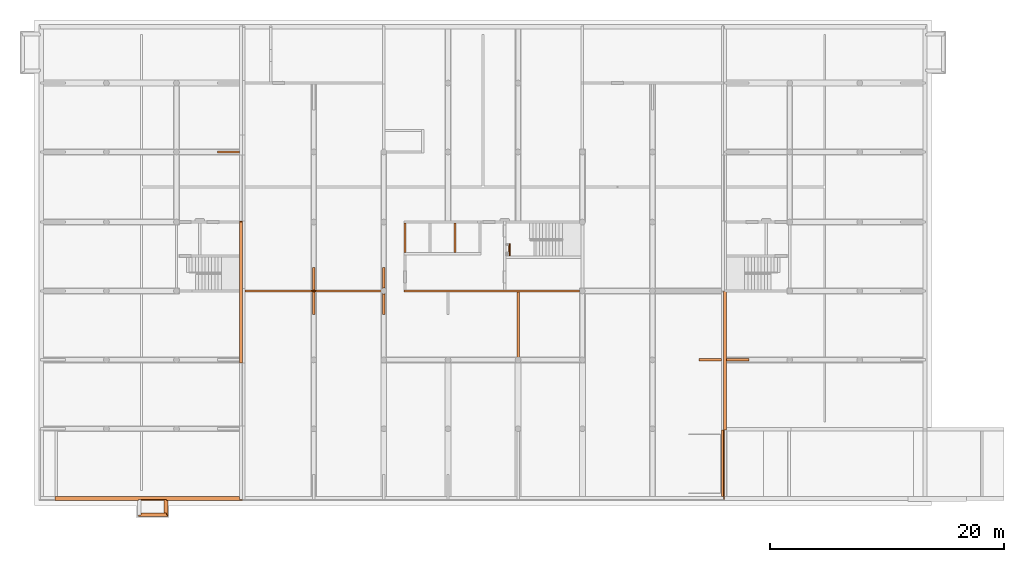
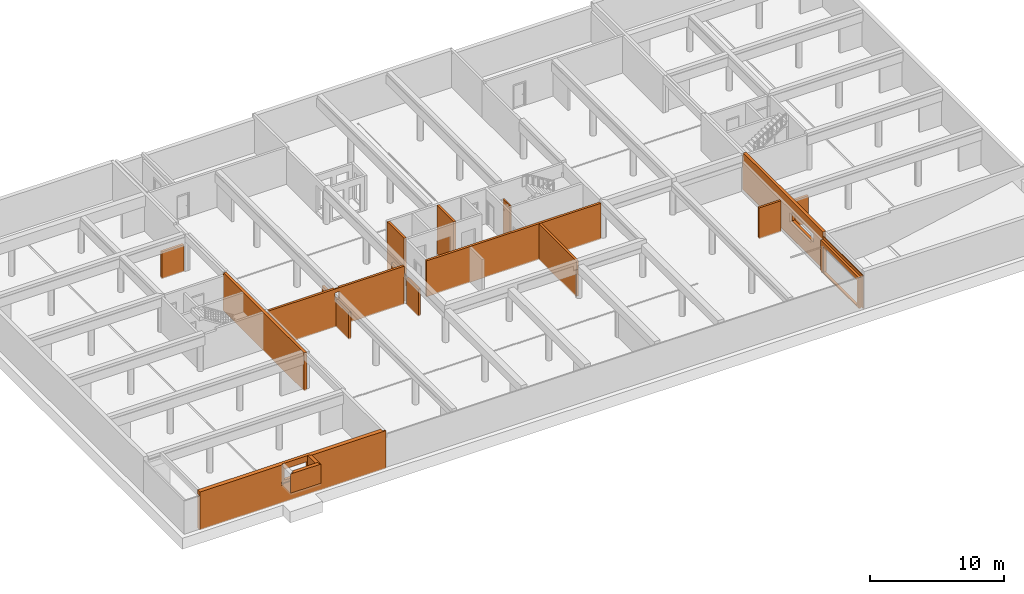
# One storey, part 22 of 25: 18 proxies, 3 openings.
"""IFC2X3 building model written with IfcOpenShell, lengths in millimetres."""

from ifc_helpers import new_model, entity, si_unit, converted_unit, derived_unit, money_unit, direction, frame, origin_with_axes, origin_2d_with_axis, place, context, subcontext, project, spatial, rectangle, extrude, faceted_brep, material, material_list, type_object, element, save


model = new_model("IFC2X3")

# Units and contexts
model_context = context("Model", 3, precision=0.01, world=origin_with_axes(), true_north=direction((0.34421633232, 0.938890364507)))
body_context = subcontext(model_context, "Body", "Model", "MODEL_VIEW")
ifc_project = project(units=[si_unit("LENGTHUNIT", "METRE", prefix="MILLI"), si_unit("AREAUNIT", "SQUARE_METRE"), si_unit("VOLUMEUNIT", "CUBIC_METRE"), converted_unit("PLANEANGLEUNIT", "DEGREE", entity("IfcPlaneAngleMeasure", 0.0174532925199), si_unit("PLANEANGLEUNIT", "RADIAN"), dimensions=[0, 0, 0, 0, 0, 0, 0]), si_unit("SOLIDANGLEUNIT", "STERADIAN"), money_unit("USD"), converted_unit("TIMEUNIT", "Year", entity("IfcTimeMeasure", 31556926.0), si_unit("TIMEUNIT", "SECOND"), dimensions=[0, 0, 1, 0, 0, 0, 0]), si_unit("MASSUNIT", "GRAM", prefix="KILO"), si_unit("THERMODYNAMICTEMPERATUREUNIT", "DEGREE_CELSIUS"), si_unit("LUMINOUSINTENSITYUNIT", "LUMEN"), si_unit("ENERGYUNIT", "JOULE", prefix="MEGA"), derived_unit("THERMALCONDUCTANCEUNIT", [(si_unit("POWERUNIT", "WATT"), 1), (si_unit("LENGTHUNIT", "METRE"), -1), (si_unit("THERMODYNAMICTEMPERATUREUNIT", "KELVIN"), -1)]), derived_unit("SPECIFICHEATCAPACITYUNIT", [(si_unit("ENERGYUNIT", "JOULE"), 1), (si_unit("MASSUNIT", "GRAM", prefix="KILO"), -1), (si_unit("THERMODYNAMICTEMPERATUREUNIT", "KELVIN"), -1)]), derived_unit("MASSDENSITYUNIT", [(si_unit("MASSUNIT", "GRAM", prefix="KILO"), 1), (si_unit("VOLUMEUNIT", "CUBIC_METRE"), -1)])], contexts=[model_context])

# Site, building, storey
site_placement = place(None, origin_with_axes())
site = spatial("IfcSite", under=ifc_project, at=site_placement, Name="USTRONIE MORSKIE", CompositionType="ELEMENT")
building_placement = place(site_placement, origin_with_axes())
building = spatial("IfcBuilding", under=site, at=building_placement, Name="Budynek", CompositionType="ELEMENT")
storey_placement = place(building_placement, frame((0.0, 0.0, -3600.0), z_axis=(0.0, 0.0, 1.0), x_axis=(1.0, 0.0, 0.0)))
storey = spatial("IfcBuildingStorey", under=building, at=storey_placement, Name="GARAZ", CompositionType="ELEMENT", Elevation=-3600.0)

# Proxies
ifc_material_1 = material(Name="Membrana przeciwwilgociowa")
ifc_material_2 = material(Name="Płyty styropianowe twarde HIGH-PRIORITY")
ifc_material_3 = material(Name="Beton konstrukcyjny 01")
ifc_material_list_1 = material_list([ifc_material_1, ifc_material_2, ifc_material_3])
building_element_proxy_type_1 = type_object("IfcBuildingElementProxyType", Name="20+10 GARAŻ 310", PredefinedType="NOTDEFINED")
proxy_1_placement = place(storey_placement, frame((360517.920919, 709201.199036, 1620.0), z_axis=(0.0, 0.0, 1.0), x_axis=(0.0, -1.0, 0.0)))
element("IfcBuildingElementProxy", 1, at=proxy_1_placement, inside=storey, type_object=building_element_proxy_type_1, material=ifc_material_list_1, Name="Œciana-006", context=body_context, shape_type="Brep", body=[
    faceted_brep([(1600.0, 310.0, 1750.0), (260.0, 310.0, 1750.0), (260.0, 300.0, 1750.0), (1600.0, 300.0, 1750.0), (1600.0, 310.0, 0.0), (260.0, 310.0, 0.0), (260.0, 300.0, 0.0), (1600.0, 300.0, 0.0)], [[[0, 1, 2, 3]], [[4, 5, 1, 0]], [[2, 1, 5, 6]], [[3, 2, 6, 7]], [[3, 7, 4, 0]], [[7, 6, 5, 4]]]),
    faceted_brep([(1500.0, 300.0, 1750.0), (250.0, 300.0, 1750.0), (250.0, 200.0, 1750.0), (1500.0, 200.0, 1750.0), (1500.0, 300.0, 0.0), (250.0, 300.0, 0.0), (250.0, 200.0, 0.0), (1500.0, 200.0, 0.0)], [[[0, 1, 2, 3]], [[4, 5, 1, 0]], [[2, 1, 5, 6]], [[3, 2, 6, 7]], [[3, 7, 4, 0]], [[7, 6, 5, 4]]]),
    faceted_brep([(1300.0, 200.0, 200.000303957), (149.99999553, 200.0, 200.000303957), (150.0, 200.0, 1750.0), (1300.0, 200.0, 1750.0), (149.99999553, 0.0, 200.000303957), (1300.0, 0.0, 200.000303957), (150.0, 0.0, 1750.0), (1300.0, 0.0, 1750.0)], [[[0, 1, 2, 3]], [[4, 1, 0, 5]], [[1, 4, 6, 2]], [[7, 3, 2, 6]], [[5, 0, 3, 7]], [[4, 5, 7, 6]]]),
])
ifc_material_list_2 = material_list([ifc_material_3, ifc_material_2, ifc_material_1])
proxy_2_placement = place(storey_placement, frame((358517.920919, 707901.199036, 1620.0), z_axis=(0.0, 0.0, 1.0), x_axis=(1.0, 0.0, 0.0)))
element("IfcBuildingElementProxy", 2, at=proxy_2_placement, inside=storey, type_object=building_element_proxy_type_1, material=ifc_material_list_2, Name="Œciana-006", context=body_context, shape_type="Brep", body=[
    faceted_brep([(2200.0, -200.0, 200.000303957), (2200.0, 0.0, 200.000303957), (2200.0, 0.0, 1750.0), (2200.0, -200.0, 1750.0), (0.0, 0.0, 200.000303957), (0.0, -200.0, 200.000303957), (0.0, 0.0, 1750.0), (0.0, -200.0, 1750.0)], [[[0, 1, 2, 3]], [[4, 1, 0, 5]], [[1, 4, 6, 2]], [[3, 2, 6, 7]], [[5, 0, 3, 7]], [[4, 5, 7, 6]]]),
    faceted_brep([(2300.0, -300.0, 0.0), (-200.0, -300.0, 0.0), (-200.0, -200.0, 0.0), (2300.0, -200.0, 0.0), (2300.0, -300.0, 1750.0), (-200.0, -300.0, 1750.0), (-200.0, -200.0, 1750.0), (2300.0, -200.0, 1750.0)], [[[0, 1, 2, 3]], [[4, 5, 1, 0]], [[2, 1, 5, 6]], [[3, 2, 6, 7]], [[3, 7, 4, 0]], [[7, 6, 5, 4]]]),
    faceted_brep([(2310.0, -310.0, 0.0), (-300.0, -310.0, 0.0), (-300.0, -300.0, 0.0), (2310.0, -300.0, 0.0), (2310.0, -310.0, 1750.0), (-300.0, -310.0, 1750.0), (-300.0, -300.0, 1750.0), (2310.0, -300.0, 1750.0)], [[[0, 1, 2, 3]], [[4, 5, 1, 0]], [[2, 1, 5, 6]], [[3, 2, 6, 7]], [[3, 7, 4, 0]], [[7, 6, 5, 4]]]),
])
building_element_proxy_type_2 = type_object("IfcBuildingElementProxyType", Name="Beton konstrukcyjny 01 200", PredefinedType="NOTDEFINED")
proxy_3_placement = place(storey_placement, frame((367067.920919, 738801.199036, -100.0), z_axis=(0.0, 0.0, 1.0), x_axis=(-1.0, 0.0, 0.0)))
element("IfcBuildingElementProxy", 3, at=proxy_3_placement, inside=storey, type_object=building_element_proxy_type_2, material=ifc_material_3, Name="SW-01", context=body_context, shape_type="Brep", body=[
    faceted_brep([(100.0, 100.0, 2470.00030619), (100.0, -100.0, 2470.00030619), (2000.0, -100.0, 2470.00030619), (2000.0, 100.0, 2470.00030619), (100.0, 100.0, 0.0), (100.0, -100.0, 0.0), (2000.0, -100.0, 0.0), (2000.0, 100.0, 0.0)], [[[0, 1, 2, 3]], [[4, 5, 1, 0]], [[1, 5, 6, 2]], [[7, 3, 2, 6]], [[4, 0, 3, 7]], [[5, 4, 7, 6]]]),
])
proxy_4_placement = place(storey_placement, frame((396317.920919, 726901.199036, -100.0), z_axis=(0.0, 0.0, 1.0), x_axis=(-1.0, 0.0, 0.0)))
element("IfcBuildingElementProxy", 4, at=proxy_4_placement, inside=storey, type_object=building_element_proxy_type_2, material=ifc_material_3, Name="SW-01", context=body_context, shape_type="Brep", body=[
    faceted_brep([(250.0, 0.0, 3270.0), (246.201938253, -43.4120444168, 3270.0), (234.923155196, -85.5050358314, 3270.0), (228.1640424, -100.0, 3270.0), (15280.0, -100.0, 3270.0), (15280.0, 100.0, 3270.0), (228.1640424, 100.0, 3270.0), (234.923155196, 85.5050358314, 3270.0), (246.201938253, 43.4120444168, 3270.0), (246.201938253, -43.4120444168, 0.0), (250.0, 0.0, 0.0), (234.923155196, -85.5050358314, 0.0), (228.1640424, -100.0, 0.0), (15280.0, -100.0, 0.0), (15280.0, 100.0, 0.0), (228.1640424, 100.0, 0.0), (234.923155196, 85.5050358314, 0.0), (246.201938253, 43.4120444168, 0.0)], [[[0, 1, 2, 3, 4, 5, 6, 7, 8]], [[9, 1, 0, 10]], [[11, 2, 1, 9]], [[11, 12, 3, 2]], [[4, 3, 12, 13]], [[13, 14, 5, 4]], [[14, 15, 6, 5]], [[16, 7, 6, 15]], [[17, 8, 7, 16]], [[10, 0, 8, 17]], [[17, 16, 15, 14, 13, 12, 11, 9, 10]]]),
])
proxy_5_placement = place(storey_placement, frame((408317.920919, 721001.199036, -100.0), z_axis=(0.0, 0.0, 1.0), x_axis=(-1.0, 0.0, 0.0)))
element("IfcBuildingElementProxy", 5, at=proxy_5_placement, inside=storey, type_object=building_element_proxy_type_2, material=ifc_material_3, Name="SW-01", context=body_context, shape_type="Brep", body=[
    faceted_brep([(2000.0, -100.0, 0.0), (2000.0, -100.0, 2820.0), (100.0, -100.0, 2820.0), (100.0, -100.0, 0.0), (2000.0, 100.0, 0.0), (2000.0, 100.0, 2820.0), (100.0, 100.0, 2820.0), (100.0, 100.0, 0.0)], [[[0, 1, 2, 3]], [[4, 5, 1, 0]], [[5, 6, 2, 1]], [[3, 2, 6, 7]], [[3, 7, 4, 0]], [[7, 6, 5, 4]]]),
])
proxy_6_placement = place(storey_placement, frame((373317.920919, 726901.199036, -100.0), z_axis=(0.0, 0.0, 1.0), x_axis=(0.0, 1.0, 0.0)))
element("IfcBuildingElementProxy", 6, at=proxy_6_placement, inside=storey, type_object=building_element_proxy_type_2, material=ifc_material_3, Name="SW-01", context=body_context, shape_type="Brep", body=[
    faceted_brep([(2000.0, -100.0, 2470.0), (2000.0, 100.0, 2470.0), (100.0, 100.0, 2470.0), (100.0, -100.0, 2470.0), (2000.0, 100.0, 0.0), (2000.0, -100.0, 0.0), (100.0, 100.0, 0.0), (100.0, -100.0, 0.0)], [[[0, 1, 2, 3]], [[4, 1, 0, 5]], [[1, 4, 6, 2]], [[2, 6, 7, 3]], [[5, 0, 3, 7]], [[4, 5, 7, 6]]]),
])
proxy_7_placement = place(storey_placement, frame((379317.920919, 728901.199036, -100.0), z_axis=(0.0, 0.0, 1.0), x_axis=(0.0, -1.0, 0.0)))
element("IfcBuildingElementProxy", 7, at=proxy_7_placement, inside=storey, type_object=building_element_proxy_type_2, material=ifc_material_3, Name="SW-01", context=body_context, shape_type="Brep", body=[
    faceted_brep([(4000.0, 100.0, 0.0), (2228.18053009, 100.0, 0.0), (2228.18053009, 100.0, 2470.00030619), (4000.0, 100.0, 2470.00030619), (2246.21671037, 43.4146491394, 0.0), (2234.93725059, 85.5101661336, 0.0), (4000.0, -100.0, 0.0), (2228.18053009, -100.0, 0.0), (2234.93725059, -85.5101661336, 0.0), (2246.21671037, -43.4146491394, 0.0), (2250.015, 0.0, 0.0), (2234.93725059, 85.5101661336, 2470.00030619), (2246.21671037, -43.4146491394, 2470.00030619), (2234.93725059, -85.5101661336, 2470.00030619), (2228.18053009, -100.0, 2470.00030619), (4000.0, -100.0, 2470.00030619), (2246.21671037, 43.4146491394, 2470.00030619), (2250.015, 0.0, 2470.00030619)], [[[0, 1, 2, 3]], [[4, 5, 1, 0, 6, 7, 8, 9, 10]], [[5, 11, 2, 1]], [[12, 13, 14, 15, 3, 2, 11, 16, 17]], [[6, 0, 3, 15]], [[4, 16, 11, 5]], [[15, 14, 7, 6]], [[7, 14, 13, 8]], [[8, 13, 12, 9]], [[9, 12, 17, 10]], [[10, 17, 16, 4]]]),
    faceted_brep([(1749.985, 0.0, 2470.00030619), (1753.78328963, 43.4146491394, 2470.00030619), (1765.06274941, 85.5101661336, 2470.00030619), (1771.81946991, 100.0, 2470.00030619), (0.0, 100.0, 2470.00030619), (0.0, -100.0, 2470.00030619), (1771.81946991, -100.0, 2470.00030619), (1765.06274941, -85.5101661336, 2470.00030619), (1753.78328963, -43.4146491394, 2470.00030619), (1753.78328963, 43.4146491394, 0.0), (1749.985, 0.0, 0.0), (1765.06274941, 85.5101661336, 0.0), (1771.81946991, 100.0, 0.0), (0.0, 100.0, 0.0), (0.0, -100.0, 0.0), (1771.81946991, -100.0, 0.0), (1765.06274941, -85.5101661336, 0.0), (1753.78328963, -43.4146491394, 0.0)], [[[0, 1, 2, 3, 4, 5, 6, 7, 8]], [[9, 1, 0, 10]], [[11, 2, 1, 9]], [[11, 12, 3, 2]], [[4, 3, 12, 13]], [[13, 14, 5, 4]], [[14, 15, 6, 5]], [[16, 7, 6, 15]], [[17, 8, 7, 16]], [[10, 0, 8, 17]], [[17, 16, 15, 14, 13, 12, 11, 9, 10]]]),
])
proxy_8_placement = place(storey_placement, frame((367317.920919, 726901.199036, -100.0), z_axis=(0.0, 0.0, 1.0), x_axis=(1.0, 0.0, 0.0)))
element("IfcBuildingElementProxy", 8, at=proxy_8_placement, inside=storey, type_object=building_element_proxy_type_2, material=ifc_material_3, Name="SW-01", context=body_context, shape_type="Brep", body=[
    faceted_brep([(11799.9999978, -100.0, 3220.00030172), (11800.0, -100.0, 2470.00030619), (11800.0, 100.0, 2470.00030619), (11799.9999978, 100.0, 3220.00030172), (11771.8194699, -100.0, 0.0), (11771.8194699, -100.0, 2470.00030619), (11800.0, -100.0, 3470.00030619), (100.0, -100.0, 3470.0), (100.0, -100.0, 0.0), (6200.0, -100.0, 2470.00030619), (5800.0, -100.0, 2470.00030619), (5800.00000447, -100.0, 2920.0003047), (5800.0, -100.0, 3120.00030619), (6200.0, -100.0, 3120.00030619), (6199.99999702, -100.0, 2920.0003047), (11765.0627494, 85.5101661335, 2470.00030619), (11771.8194699, 100.0, 2470.00030619), (11765.0627494, -85.5101661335, 2470.00030619), (11753.7832896, -43.4146491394, 2470.00030619), (11749.985, 0.0, 2470.00030619), (11753.7832896, 43.4146491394, 2470.00030619), (11771.8194699, 100.0, 0.0), (100.0, 100.0, 0.0), (100.0, 100.0, 3470.0), (5800.0, 100.0, 3470.00030619), (5800.00000447, 100.0, 3220.00030172), (5800.0, 100.0, 2470.00030619), (6200.0, 100.0, 2470.00030619), (6200.00000224, 100.0, 3220.00030172), (6200.0, 100.0, 3470.00030619), (11800.0, 100.0, 3470.00030619), (11765.0627494, -85.5101661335, 0.0), (6200.0, 0.0, 3470.00030619), (5800.0, 0.0, 3470.00030619), (11753.7832896, -43.4146491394, 0.0), (11765.0627494, 85.5101661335, 0.0), (11753.7832896, 43.4146491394, 0.0), (11749.985, 0.0, 0.0), (6200.0, 0.0, 2470.00030619), (5800.0, 0.0, 2470.00030619), (5800.00000268, 0.0, 2920.0003047), (5800.00000387, 0.0, 3120.00030619), (6200.00000194, 0.0, 3120.00030619), (6200.00000134, 0.0, 2920.0003047), (5800.00000447, 0.0, 3220.00030172), (6200.00000224, 0.0, 3220.00030172)], [[[0, 1, 2, 3]], [[4, 5, 1, 0, 6, 7, 8], [9, 10, 11, 12, 13, 14]], [[15, 16, 2, 1, 5, 17, 18, 19, 20]], [[2, 16, 21, 22, 23, 24, 25, 26, 27, 28, 29, 30, 3]], [[6, 0, 3, 30]], [[17, 5, 4, 31]], [[29, 32, 33, 24, 23, 7, 6, 30]], [[22, 8, 7, 23]], [[34, 31, 4, 8, 22, 21, 35, 36, 37]], [[10, 9, 38, 27, 26, 39]], [[11, 10, 39, 40]], [[12, 11, 40, 41]], [[13, 12, 41, 42]], [[14, 13, 42, 43]], [[9, 14, 43, 38]], [[35, 21, 16, 15]], [[17, 31, 34, 18]], [[18, 34, 37, 19]], [[19, 37, 36, 20]], [[20, 36, 35, 15]], [[33, 44, 25, 24]], [[40, 39, 26, 25, 44, 41]], [[42, 45, 28, 27, 38, 43]], [[28, 45, 32, 29]], [[41, 44, 33, 32, 45, 42]]]),
])
proxy_9_placement = place(storey_placement, frame((373317.920919, 726901.199036, -100.0), z_axis=(0.0, 0.0, 1.0), x_axis=(0.0, -1.0, 0.0)))
element("IfcBuildingElementProxy", 9, at=proxy_9_placement, inside=storey, type_object=building_element_proxy_type_2, material=ifc_material_3, Name="SW-01", context=body_context, shape_type="Brep", body=[
    faceted_brep([(100.0, -100.0, 0.0), (100.0, -100.0, 2470.00030619), (100.0, 100.0, 2470.00030619), (100.0, 100.0, 0.0), (2000.0, -100.0, 0.0), (2000.0, -100.0, 2470.00030619), (2000.0, 100.0, 2470.00030619), (2000.0, 100.0, 0.0)], [[[0, 1, 2, 3]], [[4, 5, 1, 0]], [[5, 6, 2, 1]], [[3, 2, 6, 7]], [[7, 4, 0, 3]], [[7, 6, 5, 4]]]),
])
proxy_10_placement = place(storey_placement, frame((390817.920919, 726901.199036, -100.0), z_axis=(0.0, 0.0, 1.0), x_axis=(0.0, -1.0, 0.0)))
element("IfcBuildingElementProxy", 10, at=proxy_10_placement, inside=storey, type_object=building_element_proxy_type_2, material=ifc_material_3, Name="SW-01", context=body_context, shape_type="Brep", body=[
    faceted_brep([(5700.0, 100.0, 2470.00030619), (5671.81946991, 100.0, 2470.00030619), (5671.81946991, 100.0, 0.0), (100.0, 100.0, 0.0), (100.0, 100.0, 3270.0), (5700.00000119, 100.0, 3270.0), (5699.99999776, 100.0, 3220.00030172), (5665.06274941, 85.5101661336, 2470.00030619), (5700.0, -100.0, 2470.00030619), (5671.81946991, -100.0, 2470.00030619), (5665.06274941, -85.5101661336, 2470.00030619), (5653.78328963, -43.4146491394, 2470.00030619), (5649.985, 0.0, 2470.00030619), (5653.78328963, 43.4146491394, 2470.00030619), (5665.06274941, 85.5101661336, 0.0), (5653.78328963, -43.4146491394, 0.0), (5665.06274941, -85.5101661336, 0.0), (5671.81946991, -100.0, 0.0), (100.0, -100.0, 0.0), (5653.78328963, 43.4146491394, 0.0), (5649.985, 0.0, 0.0), (100.0, -100.0, 3270.0), (5700.00000119, -100.0, 3270.0), (5699.99999776, -100.0, 3220.00030172)], [[[0, 1, 2, 3, 4, 5, 6]], [[7, 1, 0, 8, 9, 10, 11, 12, 13]], [[14, 2, 1, 7]], [[15, 16, 17, 18, 3, 2, 14, 19, 20]], [[4, 3, 18, 21]], [[4, 21, 22, 5]], [[22, 23, 6, 5]], [[23, 8, 0, 6]], [[17, 9, 8, 23, 22, 21, 18]], [[9, 17, 16, 10]], [[10, 16, 15, 11]], [[11, 15, 20, 12]], [[12, 20, 19, 13]], [[13, 19, 14, 7]]]),
])
proxy_11_placement = place(storey_placement, frame((381137.920919, 732801.199036, -1220.0), z_axis=(0.0, 0.0, 1.0), x_axis=(0.0, -1.0, 0.0)))
element("IfcBuildingElementProxy", 11, at=proxy_11_placement, inside=storey, type_object=building_element_proxy_type_2, material=ifc_material_3, Name="SW-01", context=body_context, shape_type="Brep", body=[
    faceted_brep([(2610.0, -100.0, 4390.0), (2610.0, -100.0, 0.0), (2610.0, 100.0, 0.0), (2610.0, 100.0, 4390.0), (100.0, -100.0, 0.0), (100.0, -100.0, 4390.0), (100.0, 100.0, 0.0), (100.0, 100.0, 4390.0)], [[[0, 1, 2, 3]], [[4, 1, 0, 5]], [[6, 2, 1, 4]], [[3, 2, 6, 7]], [[5, 0, 3, 7]], [[5, 7, 6, 4]]]),
])
proxy_12_placement = place(storey_placement, frame((408567.920919, 721001.199036, -100.0), z_axis=(0.0, 0.0, 1.0), x_axis=(1.0, 0.0, 0.0)))
element("IfcBuildingElementProxy", 12, at=proxy_12_placement, inside=storey, type_object=building_element_proxy_type_2, material=ifc_material_3, Name="SW-01", context=body_context, shape_type="Brep", body=[
    faceted_brep([(100.0, -100.0, 0.0), (100.0, 100.0, 0.0), (2000.0, 100.0, 0.0), (2000.0, -100.0, 0.0), (100.0, -100.0, 2470.0), (100.0, 100.0, 2470.0), (2000.0, 100.0, 2470.0), (2000.0, -100.0, 2470.0)], [[[0, 1, 2, 3]], [[4, 5, 1, 0]], [[1, 5, 6, 2]], [[7, 3, 2, 6]], [[4, 0, 3, 7]], [[5, 4, 7, 6]]]),
])
proxy_13_placement = place(storey_placement, frame((385417.920919, 730091.199036, -1220.0), z_axis=(0.0, 0.0, 1.0), x_axis=(0.0, 1.0, 0.0)))
element("IfcBuildingElementProxy", 13, at=proxy_13_placement, inside=storey, type_object=building_element_proxy_type_2, material=ifc_material_3, Name="SW-01", context=body_context, shape_type="Brep", body=[
    faceted_brep([(2610.0, 100.0, 0.0), (2610.0, 100.0, 4390.0), (2610.0, -100.0, 4390.0), (2610.0, -100.0, 0.0), (100.0, 100.0, 0.0), (100.0, 100.0, 4390.0), (100.0, -100.0, 4390.0), (100.0, -100.0, 0.0)], [[[0, 1, 2, 3]], [[4, 5, 1, 0]], [[5, 6, 2, 1]], [[3, 2, 6, 7]], [[0, 3, 7, 4]], [[7, 6, 5, 4]]]),
])

# Proxy, opening
building_element_proxy_type_3 = type_object("IfcBuildingElementProxyType", Name="25+10 GARAŻ 360", PredefinedType="NOTDEFINED")
proxy_14_placement = place(storey_placement, frame((351167.920919, 709201.199036, -800.0), z_axis=(0.0, 0.0, 1.0), x_axis=(1.0, 0.0, 0.0)))
proxy_14 = element("IfcBuildingElementProxy", 14, at=proxy_14_placement, inside=storey, type_object=building_element_proxy_type_3, material=ifc_material_list_2, Name="SZ-02", context=body_context, shape_type="Brep", body=[
    faceted_brep([(15800.0, 99.9999985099, 700.0), (0.0, 100.0, 700.0), (0.0, 100.0, 3620.0), (200.0, 100.0, 3620.0), (200.0, 100.0, 3820.0), (0.0, 100.0, 3820.0), (0.0, 100.0, 4170.0), (15800.0, 100.0, 4170.0), (15800.0, -149.99999553, 700.0), (0.0, -150.0, 700.0), (0.0, -150.000003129, 3620.0), (200.0, -150.000003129, 3620.0), (200.0, -150.000003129, 3820.0), (0.0, -150.000003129, 3820.0), (0.0, -150.0, 4170.0), (15800.0, -150.0, 4170.0)], [[[0, 1, 2, 3, 4, 5, 6, 7]], [[8, 9, 1, 0]], [[1, 9, 10, 2]], [[10, 11, 3, 2]], [[11, 12, 4, 3]], [[12, 13, 5, 4]], [[14, 6, 5, 13]], [[7, 6, 14, 15]], [[7, 15, 8, 0]], [[13, 12, 11, 10, 9, 8, 15, 14]]]),
    faceted_brep([(7150.0, -250.0, 4170.0), (7150.0, -250.00000132, 2620.00030396), (7150.0, -149.99999553, 2620.00030396), (7150.0, -150.0, 4170.0), (9650.0, -250.00000149, 2620.00030396), (9650.0, -250.00000149, 2420.00030396), (9550.0, -250.00000149, 2420.00030396), (9350.0, -250.00000149, 2420.00030396), (7350.0, -250.00000149, 2420.00030396), (7150.0, -250.00000149, 2420.00030396), (7050.0, -250.00000149, 2420.00030396), (7050.0, -250.00000149, 2620.00030396), (0.0, -250.0, 4170.0), (0.0, -250.0, 700.0), (15900.0, -250.00000149, 700.0), (16050.0000024, -250.00000149, 700.0), (16050.0000024, -250.0, 4170.0), (9550.0, -250.0, 4170.0), (9550.0, -250.00000132, 2620.00030396), (7050.0, -149.99999553, 2620.00030396), (9350.0, -149.99999553, 2420.00030396), (9550.0, -149.99999553, 2420.00030396), (9650.0, -149.99999553, 2420.00030396), (9650.0, -149.99999553, 2620.00030396), (9550.0, -149.99999553, 2620.00030396), (9550.0, -150.0, 4170.0), (16050.0000024, -150.0, 4170.0), (16050.0000024, -149.99999553, 700.0), (15900.0, -149.99999553, 700.0), (0.0, -150.0, 700.0), (0.0, -150.0, 4170.0), (7050.0, -149.99999553, 2420.00030396), (7150.0, -149.99999553, 2420.00030396), (7350.0, -149.99999553, 2420.00030396)], [[[0, 1, 2, 3]], [[4, 5, 6, 7, 8, 9, 10, 11, 1, 0, 12, 13, 14, 15, 16, 17, 18]], [[11, 19, 2, 1]], [[20, 21, 22, 23, 24, 25, 26, 27, 28, 29, 30, 3, 2, 19, 31, 32, 33]], [[30, 12, 0, 3]], [[4, 23, 22, 5]], [[5, 22, 21, 6]], [[7, 6, 21, 20]], [[8, 7, 20, 33]], [[9, 8, 33, 32]], [[10, 9, 32, 31]], [[10, 31, 19, 11]], [[30, 29, 13, 12]], [[13, 29, 28, 14]], [[15, 14, 28, 27]], [[27, 26, 16, 15]], [[16, 26, 25, 17]], [[25, 24, 18, 17]], [[18, 24, 23, 4]]]),
    faceted_brep([(7050.0, -250.00000149, 2420.00030396), (7050.0, -250.00000149, 2320.00030396), (9650.0, -250.00000149, 2320.00030396), (9650.0, -250.00000149, 2420.00030396), (9650.0, -250.0, 4170.0), (16050.0000024, -250.0, 4170.0), (16050.0000024, -250.000001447, 800.0), (0.0, -250.0, 800.0), (0.0, -250.0, 4170.0), (7050.0, -250.0, 4170.0), (7050.0, -260.0, 2320.00030396), (7050.0, -260.0, 2420.00030396), (9650.0, -260.0, 2320.00030396), (9650.0, -260.0, 2420.00030396), (9650.0, -260.0, 4170.0), (16050.0000024, -260.0, 4170.0), (16050.0000024, -260.0, 800.0), (0.0, -260.0, 800.0), (0.0, -260.0, 4170.0), (7050.0, -260.0, 4170.0)], [[[0, 1, 2, 3, 4, 5, 6, 7, 8, 9]], [[10, 1, 0, 11]], [[12, 2, 1, 10]], [[12, 13, 3, 2]], [[4, 3, 13, 14]], [[15, 5, 4, 14]], [[15, 16, 6, 5]], [[17, 7, 6, 16]], [[8, 7, 17, 18]], [[8, 18, 19, 9]], [[19, 11, 0, 9]], [[12, 10, 11, 19, 18, 17, 16, 15, 14, 13]]]),
])
opening_1_placement = place(proxy_14_placement, frame((8350.0, 0.0, 2619.99997167), z_axis=(0.0, 0.0, 1.0), x_axis=(1.0, 0.0, 0.0)))
element("IfcOpeningElement", 15, at=opening_1_placement, cuts=proxy_14, Name="xx", context=body_context, shape_type="SweptSolid", body=[
    extrude(rectangle(XDim=2000.0, YDim=1000.0, at=origin_2d_with_axis()), frame((0.0, -150.0, 500.0), z_axis=(0.0, 1.0, 0.0), x_axis=(1.0, 0.0, 0.0)), (0.0, 0.0, -1.0), 470.0),
    extrude(rectangle(XDim=2000.0, YDim=1000.0, at=origin_2d_with_axis()), frame((0.0, -150.0, 500.0), z_axis=(0.0, -1.0, 0.0), x_axis=(1.0, 0.0, 0.0)), (0.0, 0.0, -1.0), 470.0),
])

# Proxy
ifc_material_4 = material(Name="Płyty styropianowe twarde")
ifc_material_list_3 = material_list([ifc_material_4, ifc_material_3])
building_element_proxy_type_4 = type_object("IfcBuildingElementProxyType", Name="20+5 250", PredefinedType="NOTDEFINED")
proxy_15_placement = place(storey_placement, frame((367067.920919, 732801.199036, -100.0), z_axis=(0.0, 0.0, 1.0), x_axis=(0.0, -1.0, 0.0)))
element("IfcBuildingElementProxy", 16, at=proxy_15_placement, inside=storey, type_object=building_element_proxy_type_4, material=ifc_material_list_3, Name="Œciana-008", context=body_context, shape_type="Brep", body=[
    faceted_brep([(12050.0, 150.0, 3470.0), (12050.0, 150.0, 100.0), (-100.0, 150.0, 100.0), (-100.0, 150.0, 3280.0), (0.0, 150.0, 3280.0), (0.0, 150.0, 3470.0), (12050.0, 100.0, 3470.0), (12050.0, 100.0, 100.0), (-100.0, 100.0, 100.0), (-100.0, 100.0, 3280.0), (0.0, 100.0, 3280.0), (0.0, 100.0, 3470.0)], [[[0, 1, 2, 3, 4, 5]], [[6, 7, 1, 0]], [[7, 8, 2, 1]], [[3, 2, 8, 9]], [[9, 10, 4, 3]], [[4, 10, 11, 5]], [[6, 0, 5, 11]], [[9, 8, 7, 6, 11, 10]]]),
    faceted_brep([(-100.0, -100.0, 0.0), (-100.0, -100.0, 3280.0), (-100.0, 100.0, 3280.0), (-100.0, 100.0, 0.0), (0.0, -100.0, 3470.0), (0.0, -100.0, 3280.0), (12050.0, -100.0, 0.0), (12050.0, -100.0, 3470.0), (0.0, 100.0, 3280.0), (0.0, 100.0, 3470.0), (12050.0, 100.0, 3470.0), (12050.0, 100.0, 0.0)], [[[0, 1, 2, 3]], [[4, 5, 1, 0, 6, 7]], [[8, 2, 1, 5]], [[2, 8, 9, 10, 11, 3]], [[6, 0, 3, 11]], [[5, 4, 9, 8]], [[11, 10, 7, 6]], [[10, 9, 4, 7]]]),
])

# Proxy, opening
proxy_16_placement = place(storey_placement, frame((408317.920919, 715001.199036, -100.0), z_axis=(0.0, 0.0, 1.0), x_axis=(0.0, -1.0, 0.0)))
proxy_16 = element("IfcBuildingElementProxy", 17, at=proxy_16_placement, inside=storey, type_object=building_element_proxy_type_4, material=ifc_material_list_3, Name="Œciana-006", context=body_context, shape_type="Brep", body=[
    faceted_brep([(5949.98021535, 150.0, 100.0), (0.0, 150.0, 100.0), (0.0, 150.0, 3120.0), (5949.98021535, 150.0, 3120.0), (0.0, 100.0, 100.0), (5949.98021535, 100.0, 100.0), (0.0, 100.0, 3120.0), (5949.98021535, 100.0, 3120.0)], [[[0, 1, 2, 3]], [[4, 1, 0, 5]], [[1, 4, 6, 2]], [[7, 3, 2, 6]], [[5, 0, 3, 7]], [[4, 5, 7, 6]]]),
    faceted_brep([(0.0, -100.0, 2820.0), (0.0, 100.0, 2820.0), (0.0, 100.0, 0.0), (0.0, -100.0, 0.0), (5699.98021535, 100.0, 2820.0), (5699.98021535, -100.0, 2820.0), (5699.98021535, 100.0, 0.0), (5699.98021535, -100.0, 0.0)], [[[0, 1, 2, 3]], [[4, 1, 0, 5]], [[1, 4, 6, 2]], [[6, 7, 3, 2]], [[5, 0, 3, 7]], [[4, 5, 7, 6]]]),
])
opening_2_placement = place(proxy_16_placement, frame((2898.21298924, 0.0, 100.0), z_axis=(0.0, 0.0, 1.0), x_axis=(1.0, 0.0, 0.0)))
element("IfcOpeningElement", 18, at=opening_2_placement, cuts=proxy_16, Name="B01", context=body_context, shape_type="SweptSolid", body=[
    extrude(rectangle(XDim=5000.0, YDim=2350.0, at=origin_2d_with_axis()), frame((0.0, -250.0, 1175.0), z_axis=(0.0, 1.0, 0.0), x_axis=(-1.0, 0.0, 0.0)), (0.0, 0.0, 1.0), 750.0),
])

ifc_material_list_4 = material_list([ifc_material_3, ifc_material_4])
proxy_17_placement = place(storey_placement, frame((408567.920919, 726901.199036, -100.0), z_axis=(0.0, 0.0, 1.0), x_axis=(0.0, -1.0, 0.0)))
proxy_17 = element("IfcBuildingElementProxy", 19, at=proxy_17_placement, inside=storey, type_object=building_element_proxy_type_4, material=ifc_material_list_4, Name="SW-01", context=body_context, shape_type="Brep", body=[
    faceted_brep([(0.0, -100.0, 3470.0), (11900.0, -100.0, 3470.0), (11900.0, 100.0, 3470.0), (0.0, 100.0, 3470.0), (11900.0, -100.0, 0.0), (0.0, -100.0, 3270.0), (100.0, -100.0, 3270.0), (100.0, -100.0, 0.0), (11900.0, 100.0, 0.0), (100.0, 100.0, 0.0), (100.0, 100.0, 3270.0), (0.0, 100.0, 3270.0)], [[[0, 1, 2, 3]], [[4, 1, 0, 5, 6, 7]], [[8, 2, 1, 4]], [[3, 2, 8, 9, 10, 11]], [[3, 11, 5, 0]], [[6, 5, 11, 10]], [[6, 10, 9, 7]], [[9, 8, 4, 7]]]),
    faceted_brep([(11900.0, -100.0, 100.0), (-100.0, -100.0, 100.0), (-100.0, -100.0, 3270.0), (0.0, -100.0, 3270.0), (0.0, -100.0, 3470.0), (11900.0, -100.0, 3470.0), (-100.0, -150.0, 100.0), (11900.0, -150.0, 100.0), (-100.0, -150.0, 3270.0), (0.0, -150.0, 3270.0), (0.0, -150.0, 3470.0), (11900.0, -150.0, 3470.0)], [[[0, 1, 2, 3, 4, 5]], [[6, 1, 0, 7]], [[1, 6, 8, 2]], [[9, 3, 2, 8]], [[3, 9, 10, 4]], [[10, 11, 5, 4]], [[7, 0, 5, 11]], [[6, 7, 11, 10, 9, 8]]]),
])
opening_3_placement = place(proxy_17_placement, frame((8850.0, 0.0, 1670.00030619), z_axis=(0.0, 0.0, 1.0), x_axis=(1.0, 0.0, 0.0)))
element("IfcOpeningElement", 20, at=opening_3_placement, cuts=proxy_17, Name="Okna-005", context=body_context, shape_type="SweptSolid", body=[
    extrude(rectangle(XDim=3200.0, YDim=800.0, at=origin_2d_with_axis()), frame((0.0, 100.0, 400.0), z_axis=(0.0, -1.0, 0.0), x_axis=(1.0, 0.0, 0.0)), (0.0, 0.0, -1.0), 250.0),
    extrude(rectangle(XDim=3200.0, YDim=800.0, at=origin_2d_with_axis()), frame((0.0, 100.0, 400.0), z_axis=(0.0, 1.0, 0.0), x_axis=(1.0, 0.0, 0.0)), (0.0, 0.0, -1.0), 250.0),
])

# Proxy
ifc_material_5 = material(Name="Bloczki silikatowe")
building_element_proxy_type_5 = type_object("IfcBuildingElementProxyType", Name="Bloczki silikatowe 120", PredefinedType="NOTDEFINED")
proxy_18_placement = place(storey_placement, frame((390007.920919, 730821.199036, -100.0), z_axis=(0.0, 0.0, 1.0), x_axis=(0.0, -1.0, 0.0)))
element("IfcBuildingElementProxy", 21, at=proxy_18_placement, inside=storey, type_object=building_element_proxy_type_5, material=ifc_material_5, Name="SW-04", context=body_context, shape_type="Brep", body=[
    faceted_brep([(920.0, 120.0, 0.0), (920.0, 0.0, 0.0), (-120.0, 0.0, 0.0), (-120.0, 120.0, 0.0), (920.0, 120.0, 3270.0), (920.0, 0.0, 3270.0), (-120.0, 0.0, 3270.0), (-120.0, 120.0, 3270.0)], [[[0, 1, 2, 3]], [[1, 0, 4, 5]], [[1, 5, 6, 2]], [[7, 3, 2, 6]], [[4, 0, 3, 7]], [[5, 4, 7, 6]]]),
])

save(model, "model.ifc")
